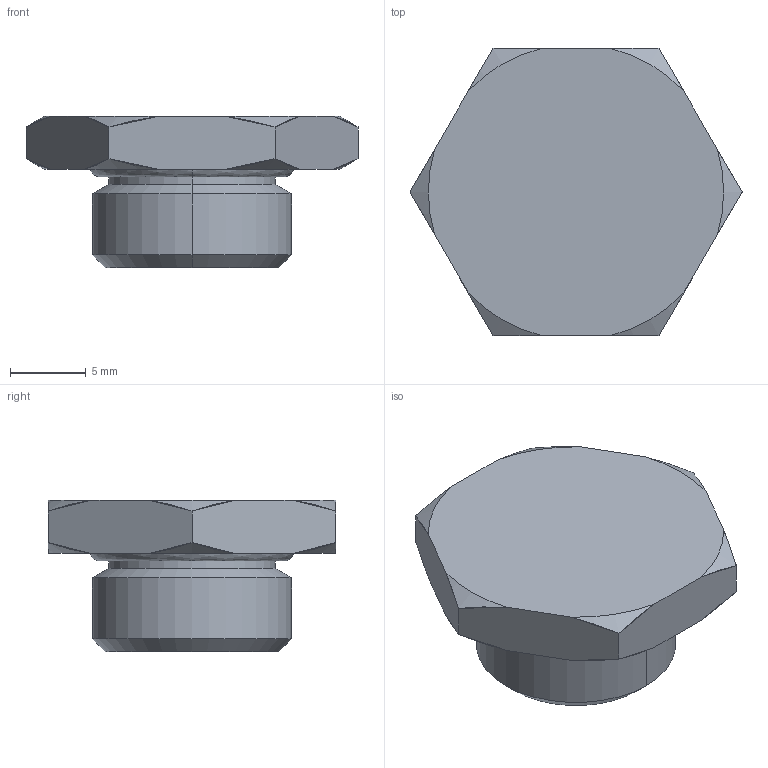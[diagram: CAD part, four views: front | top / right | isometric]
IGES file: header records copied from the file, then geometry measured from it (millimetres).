
Start section:  PTC IGES file: r412010744.igs
Global section: file name: r412010744.igs; native system: Creo Elements/Pro by Parametric Technology Corporation; preprocessor: 2012421; author: vol1hc; organization: Unknown; date: 20150623.145026; units: millimetre
Bounding box: 21.94 x 19 x 10 mm (x, y, z)
Surface area: 1132.7 mm2 (no closed solid volume)
Topology: 0 solids, 0 shells, 32 faces, 156 edges, 156 vertices
Faces by surface type: revolution 22, bspline 10
